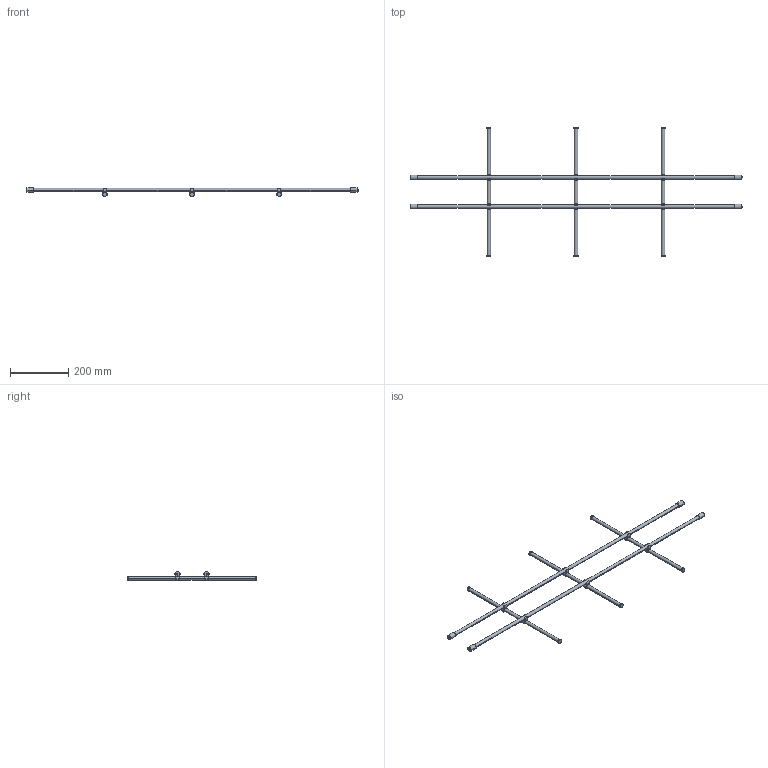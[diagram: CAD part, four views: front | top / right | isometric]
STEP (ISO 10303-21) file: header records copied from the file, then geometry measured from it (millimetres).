
FILE_DESCRIPTION (( 'STEP AP214' ), '1' );
FILE_NAME ('Magic-Classic_NL-480-KAB 1200.step', '2010-09-16T12:49:38', ( 'grass' ), ( '' ), 'SwSTEP 2.0', 'SolidWorks 2010', '' );
FILE_SCHEMA (( 'AUTOMOTIVE_DESIGN' ));
Length unit declared in the file: millimetre
Products named in the file (1): Magic-Classic_NL-480-KAB 1200
Bounding box: 1143 x 445 x 30.45 mm (x, y, z)
Volume: 433528 mm3; surface area: 144334.8 mm2
Topology: 1 solids, 1 shells, 190 faces, 534 edges, 356 vertices
Faces by surface type: plane 104, cylinder 86
Entity records: 6260 total; most frequent: DIRECTION 1136, CARTESIAN_POINT 1081, ORIENTED_EDGE 1068, EDGE_CURVE 534, AXIS2_PLACEMENT_3D 411, VERTEX_POINT 356, LINE 314, VECTOR 314
